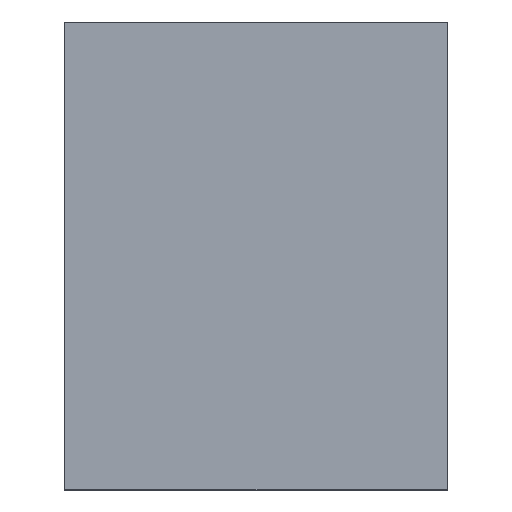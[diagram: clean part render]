
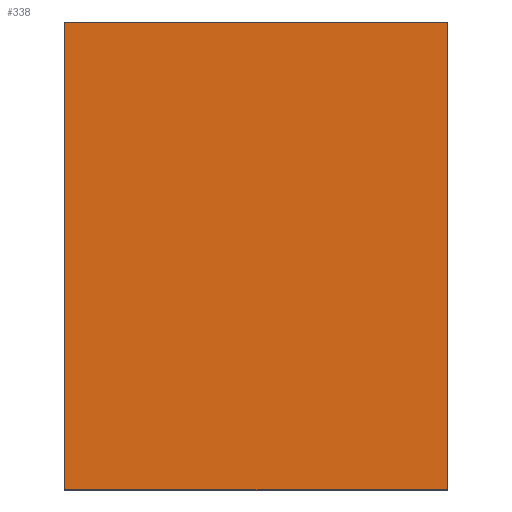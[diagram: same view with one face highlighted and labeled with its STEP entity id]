
A CAD part, top view. The second image highlights one B-rep face of the part: STEP entity #338.
In plain terms, the highlighted planar face has unit normal (0, 0, 1).
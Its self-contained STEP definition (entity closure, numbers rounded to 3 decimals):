
#24 = VERTEX_POINT('',#25);
#25 = CARTESIAN_POINT('',(-26.,46.,19.4));
#32 = PLANE('',#33);
#33 = AXIS2_PLACEMENT_3D('',#34,#35,#36);
#34 = CARTESIAN_POINT('',(-26.,46.,13.4));
#35 = DIRECTION('',(1.,0.,0.));
#36 = DIRECTION('',(0.,0.,1.));
#44 = PLANE('',#45);
#45 = AXIS2_PLACEMENT_3D('',#46,#47,#48);
#46 = CARTESIAN_POINT('',(-26.,46.,13.4));
#47 = DIRECTION('',(0.,1.,0.));
#48 = DIRECTION('',(0.,0.,1.));
#85 = VERTEX_POINT('',#86);
#86 = CARTESIAN_POINT('',(-26.,68.,19.4));
#100 = PLANE('',#101);
#101 = AXIS2_PLACEMENT_3D('',#102,#103,#104);
#102 = CARTESIAN_POINT('',(-26.,68.,13.4));
#103 = DIRECTION('',(0.,1.,0.));
#104 = DIRECTION('',(0.,0.,1.));
#112 = EDGE_CURVE('',#24,#85,#113,.T.);
#113 = SURFACE_CURVE('',#114,(#118,#125),.PCURVE_S1.);
#114 = LINE('',#115,#116);
#115 = CARTESIAN_POINT('',(-26.,46.,19.4));
#116 = VECTOR('',#117,1.);
#117 = DIRECTION('',(0.,1.,0.));
#118 = PCURVE('',#32,#119);
#119 = DEFINITIONAL_REPRESENTATION('',(#120),#124);
#120 = LINE('',#121,#122);
#121 = CARTESIAN_POINT('',(6.,0.));
#122 = VECTOR('',#123,1.);
#123 = DIRECTION('',(0.,-1.));
#124 = ( GEOMETRIC_REPRESENTATION_CONTEXT(2) 
PARAMETRIC_REPRESENTATION_CONTEXT() REPRESENTATION_CONTEXT('2D SPACE',''
  ) );
#125 = PCURVE('',#126,#131);
#126 = PLANE('',#127);
#127 = AXIS2_PLACEMENT_3D('',#128,#129,#130);
#128 = CARTESIAN_POINT('',(-26.,46.,19.4));
#129 = DIRECTION('',(0.,0.,1.));
#130 = DIRECTION('',(1.,0.,0.));
#131 = DEFINITIONAL_REPRESENTATION('',(#132),#136);
#132 = LINE('',#133,#134);
#133 = CARTESIAN_POINT('',(0.,0.));
#134 = VECTOR('',#135,1.);
#135 = DIRECTION('',(0.,1.));
#136 = ( GEOMETRIC_REPRESENTATION_CONTEXT(2) 
PARAMETRIC_REPRESENTATION_CONTEXT() REPRESENTATION_CONTEXT('2D SPACE',''
  ) );
#144 = VERTEX_POINT('',#145);
#145 = CARTESIAN_POINT('',(-8.,46.,19.4));
#152 = PLANE('',#153);
#153 = AXIS2_PLACEMENT_3D('',#154,#155,#156);
#154 = CARTESIAN_POINT('',(-8.,46.,13.4));
#155 = DIRECTION('',(1.,0.,0.));
#156 = DIRECTION('',(0.,0.,1.));
#195 = VERTEX_POINT('',#196);
#196 = CARTESIAN_POINT('',(-8.,68.,19.4));
#217 = EDGE_CURVE('',#144,#195,#218,.T.);
#218 = SURFACE_CURVE('',#219,(#223,#230),.PCURVE_S1.);
#219 = LINE('',#220,#221);
#220 = CARTESIAN_POINT('',(-8.,46.,19.4));
#221 = VECTOR('',#222,1.);
#222 = DIRECTION('',(0.,1.,0.));
#223 = PCURVE('',#152,#224);
#224 = DEFINITIONAL_REPRESENTATION('',(#225),#229);
#225 = LINE('',#226,#227);
#226 = CARTESIAN_POINT('',(6.,0.));
#227 = VECTOR('',#228,1.);
#228 = DIRECTION('',(0.,-1.));
#229 = ( GEOMETRIC_REPRESENTATION_CONTEXT(2) 
PARAMETRIC_REPRESENTATION_CONTEXT() REPRESENTATION_CONTEXT('2D SPACE',''
  ) );
#230 = PCURVE('',#126,#231);
#231 = DEFINITIONAL_REPRESENTATION('',(#232),#236);
#232 = LINE('',#233,#234);
#233 = CARTESIAN_POINT('',(18.,0.));
#234 = VECTOR('',#235,1.);
#235 = DIRECTION('',(0.,1.));
#236 = ( GEOMETRIC_REPRESENTATION_CONTEXT(2) 
PARAMETRIC_REPRESENTATION_CONTEXT() REPRESENTATION_CONTEXT('2D SPACE',''
  ) );
#263 = EDGE_CURVE('',#24,#144,#264,.T.);
#264 = SURFACE_CURVE('',#265,(#269,#276),.PCURVE_S1.);
#265 = LINE('',#266,#267);
#266 = CARTESIAN_POINT('',(-26.,46.,19.4));
#267 = VECTOR('',#268,1.);
#268 = DIRECTION('',(1.,0.,0.));
#269 = PCURVE('',#44,#270);
#270 = DEFINITIONAL_REPRESENTATION('',(#271),#275);
#271 = LINE('',#272,#273);
#272 = CARTESIAN_POINT('',(6.,0.));
#273 = VECTOR('',#274,1.);
#274 = DIRECTION('',(0.,1.));
#275 = ( GEOMETRIC_REPRESENTATION_CONTEXT(2) 
PARAMETRIC_REPRESENTATION_CONTEXT() REPRESENTATION_CONTEXT('2D SPACE',''
  ) );
#276 = PCURVE('',#126,#277);
#277 = DEFINITIONAL_REPRESENTATION('',(#278),#282);
#278 = LINE('',#279,#280);
#279 = CARTESIAN_POINT('',(0.,0.));
#280 = VECTOR('',#281,1.);
#281 = DIRECTION('',(1.,0.));
#282 = ( GEOMETRIC_REPRESENTATION_CONTEXT(2) 
PARAMETRIC_REPRESENTATION_CONTEXT() REPRESENTATION_CONTEXT('2D SPACE',''
  ) );
#310 = EDGE_CURVE('',#85,#195,#311,.T.);
#311 = SURFACE_CURVE('',#312,(#316,#323),.PCURVE_S1.);
#312 = LINE('',#313,#314);
#313 = CARTESIAN_POINT('',(-26.,68.,19.4));
#314 = VECTOR('',#315,1.);
#315 = DIRECTION('',(1.,0.,0.));
#316 = PCURVE('',#100,#317);
#317 = DEFINITIONAL_REPRESENTATION('',(#318),#322);
#318 = LINE('',#319,#320);
#319 = CARTESIAN_POINT('',(6.,0.));
#320 = VECTOR('',#321,1.);
#321 = DIRECTION('',(0.,1.));
#322 = ( GEOMETRIC_REPRESENTATION_CONTEXT(2) 
PARAMETRIC_REPRESENTATION_CONTEXT() REPRESENTATION_CONTEXT('2D SPACE',''
  ) );
#323 = PCURVE('',#126,#324);
#324 = DEFINITIONAL_REPRESENTATION('',(#325),#329);
#325 = LINE('',#326,#327);
#326 = CARTESIAN_POINT('',(0.,22.));
#327 = VECTOR('',#328,1.);
#328 = DIRECTION('',(1.,0.));
#329 = ( GEOMETRIC_REPRESENTATION_CONTEXT(2) 
PARAMETRIC_REPRESENTATION_CONTEXT() REPRESENTATION_CONTEXT('2D SPACE',''
  ) );
#338 = ADVANCED_FACE('',(#339),#126,.T.);
#339 = FACE_BOUND('',#340,.T.);
#340 = EDGE_LOOP('',(#341,#342,#343,#344));
#341 = ORIENTED_EDGE('',*,*,#112,.F.);
#342 = ORIENTED_EDGE('',*,*,#263,.T.);
#343 = ORIENTED_EDGE('',*,*,#217,.T.);
#344 = ORIENTED_EDGE('',*,*,#310,.F.);
